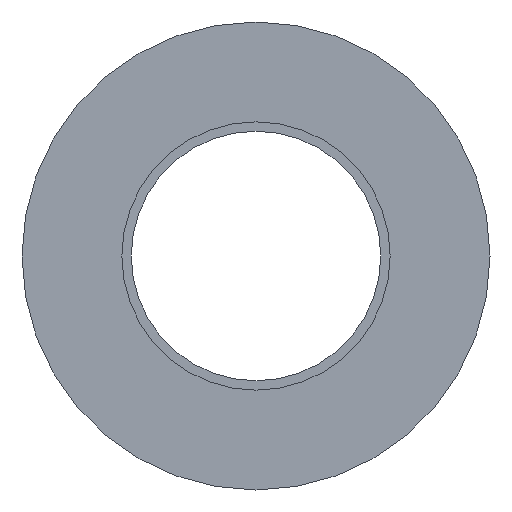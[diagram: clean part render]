
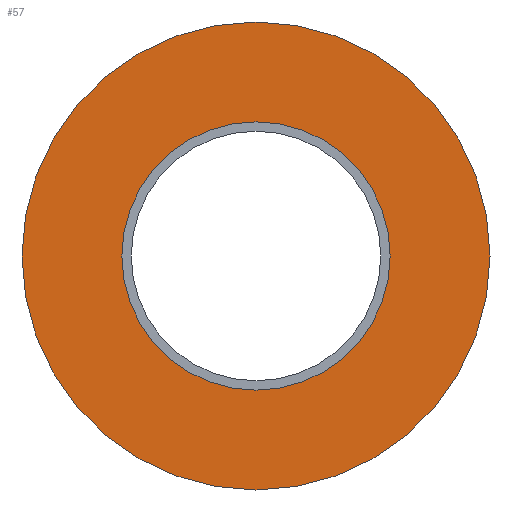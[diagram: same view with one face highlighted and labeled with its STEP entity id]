
A CAD part, left-side view. The second image highlights one B-rep face of the part: STEP entity #57.
In plain terms, the highlighted planar face has unit normal (-1, 0, 0).
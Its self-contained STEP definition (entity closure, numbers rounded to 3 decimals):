
#57 = ADVANCED_FACE( '', ( #122, #123 ), #124, .T. );
#122 = FACE_OUTER_BOUND( '', #189, .T. );
#123 = FACE_BOUND( '', #190, .T. );
#124 = PLANE( '', #191 );
#189 = EDGE_LOOP( '', ( #268 ) );
#190 = EDGE_LOOP( '', ( #269 ) );
#191 = AXIS2_PLACEMENT_3D( '', #270, #271, #272 );
#268 = ORIENTED_EDGE( '', *, *, #311, .T. );
#269 = ORIENTED_EDGE( '', *, *, #325, .F. );
#270 = CARTESIAN_POINT( '', ( -40., 0., 8.6 ) );
#271 = DIRECTION( '', ( -1., 0., 0. ) );
#272 = DIRECTION( '', ( 0., 0., 1. ) );
#311 = EDGE_CURVE( '', #346, #346, #347, .T. );
#325 = EDGE_CURVE( '', #367, #367, #368, .T. );
#346 = VERTEX_POINT( '', #391 );
#347 = CIRCLE( '', #392, 15. );
#367 = VERTEX_POINT( '', #412 );
#368 = CIRCLE( '', #413, 8.6 );
#391 = CARTESIAN_POINT( '', ( -40., 0., 15. ) );
#392 = AXIS2_PLACEMENT_3D( '', #438, #439, #440 );
#412 = CARTESIAN_POINT( '', ( -40., 0., 8.6 ) );
#413 = AXIS2_PLACEMENT_3D( '', #459, #460, #461 );
#438 = CARTESIAN_POINT( '', ( -40., 0., 0. ) );
#439 = DIRECTION( '', ( -1., 0., 0. ) );
#440 = DIRECTION( '', ( 0., 0., 1. ) );
#459 = CARTESIAN_POINT( '', ( -40., 0., 0. ) );
#460 = DIRECTION( '', ( -1., 0., 0. ) );
#461 = DIRECTION( '', ( 0., 0., 1. ) );
